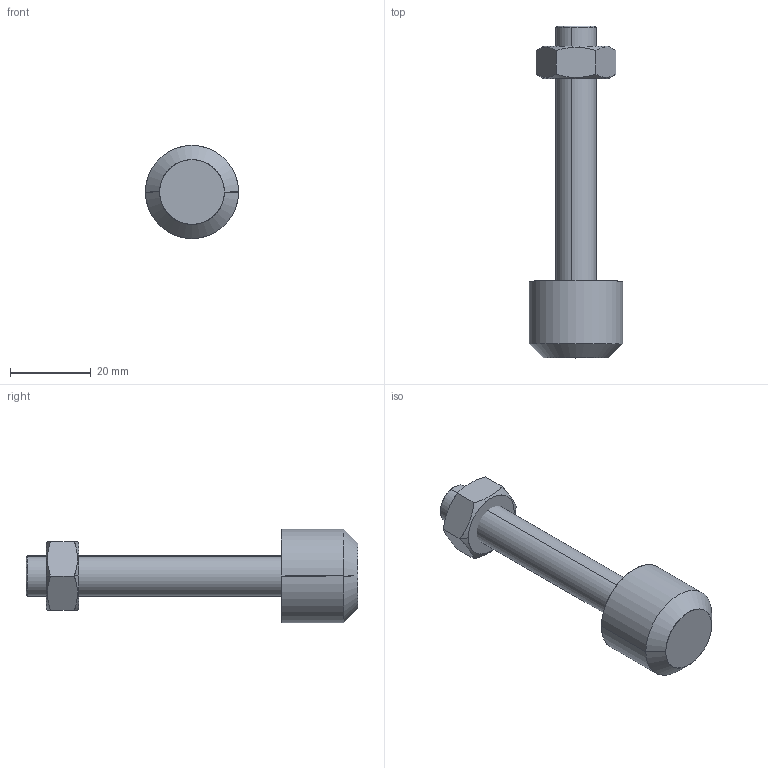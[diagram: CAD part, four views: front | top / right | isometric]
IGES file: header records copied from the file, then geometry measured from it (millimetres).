
Start section: SolidWorks IGES file using analytic representation for surfaces
Global section: file name: C:\Projetos\Ponteiras\PB\PB-M10.IGS; native system: SolidWorks 2015; preprocessor: SolidWorks 2015; author: Ricardo; date: 160725.145850; units: millimetre
Bounding box: 23 x 82 x 23 mm (x, y, z)
Surface area: 5759.7 mm2 (no closed solid volume)
Topology: 0 solids, 0 shells, 36 faces, 572 edges, 570 vertices
Faces by surface type: revolution 24, bspline 12
